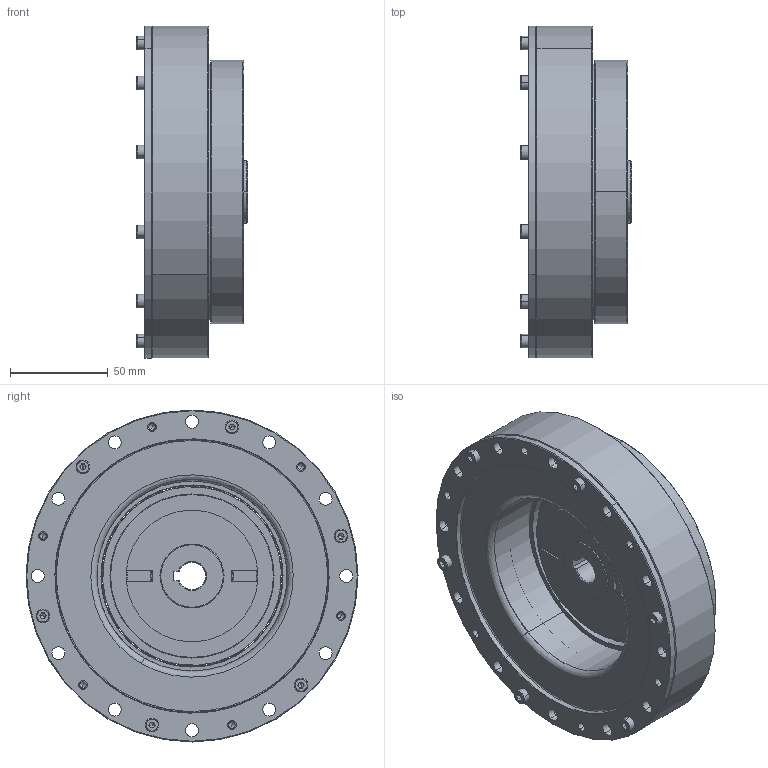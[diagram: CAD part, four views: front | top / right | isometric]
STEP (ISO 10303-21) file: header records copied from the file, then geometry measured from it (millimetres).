
FILE_DESCRIPTION (( 'STEP AP203' ), '1' );
FILE_NAME ('LHSG-40-XXX-C-II.step', '2025-01-07T07:27:05', ( '' ), ( '' ), 'SwSTEP 2.0', 'SolidWorks 2023', '' );
FILE_SCHEMA (( 'CONFIG_CONTROL_DESIGN' ));
Length unit declared in the file: metre
Products named in the file (1): LHSG-40-XXX-C-II
Bounding box: 57 x 170 x 170 mm (x, y, z)
Volume: 623355.8 mm3; surface area: 291939.2 mm2
Topology: 46 solids, 46 shells, 1010 faces, 2477 edges, 1462 vertices
Faces by surface type: cylinder 406, plane 288, cone 184, bspline 132
Entity records: 33419 total; most frequent: CARTESIAN_POINT 9974, DIRECTION 5205, ORIENTED_EDGE 4602, EDGE_CURVE 2301, AXIS2_PLACEMENT_3D 2123, VERTEX_POINT 1462, CIRCLE 1244, EDGE_LOOP 1237
